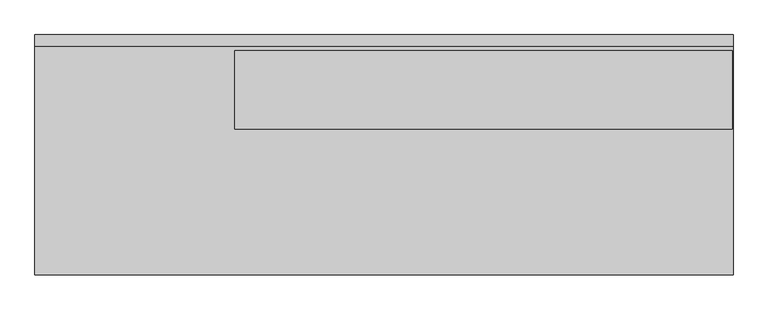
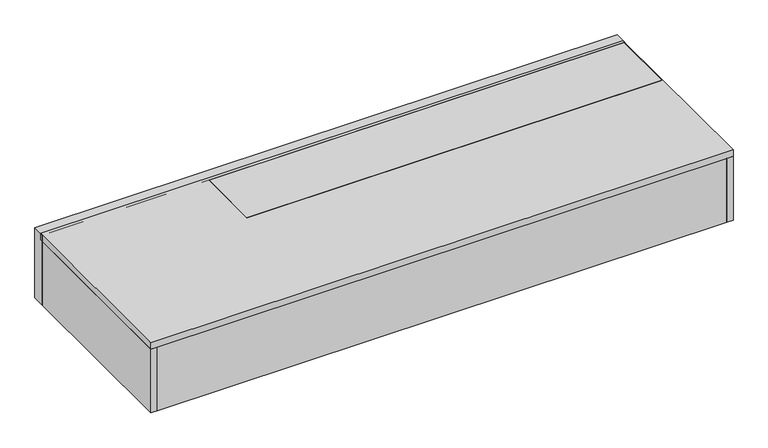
"""IFC4 building model written with IfcOpenShell, lengths in millimetres: proxy geometry, BASYS^U OFFICE_66.75 WIRE WALL-PARTS SOLID."""

from ifc_helpers import new_model, si_unit, frame, origin, origin_with_axes, place, context, project, spatial, polyline, outline, extrude, source, transform, mapped, element, save


def generic_models_7b190466(model_context):
    return source(origin(), model_context, "Body", "SweptSolid", [
        extrude(outline(polyline([(1693.06875, 0.0), (1693.06875, -191.29375), (484.98125, -191.29375), (484.98125, 0.0), (1693.06875, 0.0)])), frame((0.0, 0.0, 196.85), z_axis=(0.0, 0.0, 1.0), x_axis=(1.0, 0.0, 0.0)), (0.0, 0.0, 1.0), 19.05),
        extrude(outline(polyline([(19.05, -508.0), (19.05, -241.3), (1676.4, -241.3), (1676.4, -508.0), (19.05, -508.0)])), origin_with_axes(), (0.0, 0.0, 1.0), 19.05),
        extrude(outline(polyline([(1695.45, 9.525), (1695.45, -546.1), (0.0, -546.1), (0.0, 9.525), (1695.45, 9.525)])), frame((0.0, 0.0, 196.85), z_axis=(0.0, 0.0, 1.0), x_axis=(1.0, 0.0, 0.0)), (0.0, 0.0, 1.0), 19.05),
        extrude(outline(polyline([(1695.45, 38.1), (1695.45, 0.0), (0.0, 0.0), (0.0, 38.1), (1695.45, 38.1)])), origin_with_axes(), (0.0, 0.0, 1.0), 215.9),
        extrude(outline(polyline([(1695.45, 0.0), (1695.45, -546.1), (1676.4, -546.1), (1676.4, 0.0), (1695.45, 0.0)])), origin_with_axes(), (0.0, 0.0, 1.0), 196.85),
        extrude(outline(polyline([(1676.4, -508.0), (1676.4, -546.1), (19.05, -546.1), (19.05, -508.0), (1676.4, -508.0)])), origin_with_axes(), (0.0, 0.0, 1.0), 196.85),
        extrude(outline(polyline([(0.0, -546.1), (0.0, 0.0), (19.05, 0.0), (19.05, -546.1), (0.0, -546.1)])), origin_with_axes(), (0.0, 0.0, 1.0), 196.85),
    ])


if __name__ == "__main__":
    model = new_model("IFC4")
    model_context = context("Model", 3, world=origin())
    ifc_project = project(units=[si_unit("LENGTHUNIT", "METRE", prefix="MILLI")], contexts=[model_context])
    site = spatial("IfcSite", under=ifc_project)
    building = spatial("IfcBuilding", under=site)
    placement = place(None, origin())
    generic_models_shape = generic_models_7b190466(model_context)
    element("IfcBuildingElementProxy", 1, Name="BASYS^U OFFICE_66.75 WIRE WALL-PARTS SOLID", ObjectType="BASYS^U OFFICE_66.75 WIRE WALL-PARTS SOLID", at=placement, inside=building, context=model_context, shape_type="MappedRepresentation", body=[
        mapped(generic_models_shape, transform((0.0, 0.0, 0.0), x_axis=(1.0, 0.0, 0.0), y_axis=(0.0, 1.0, 0.0), z_axis=(0.0, 0.0, 1.0))),
    ])
    save(model, "model.ifc")
